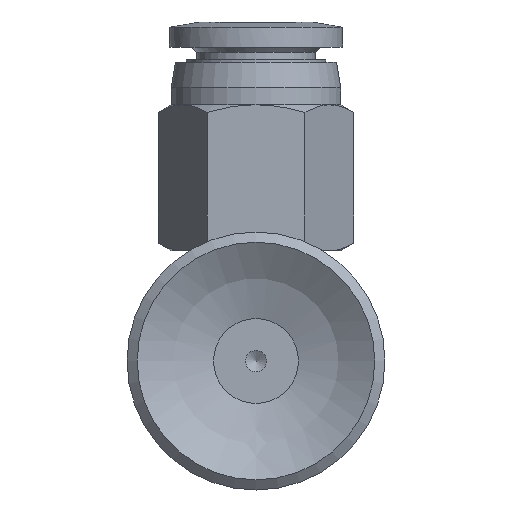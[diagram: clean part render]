
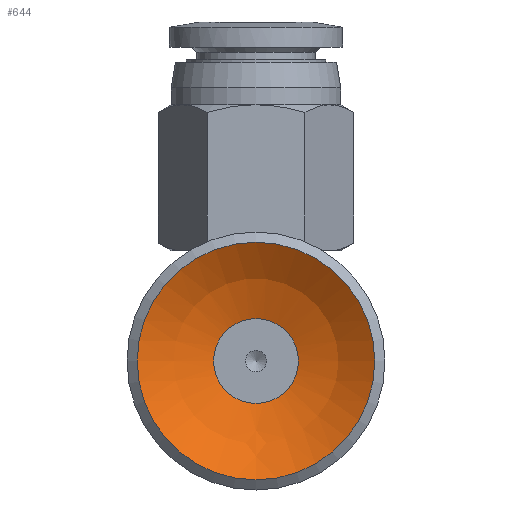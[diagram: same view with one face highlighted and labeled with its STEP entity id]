
A CAD part, front view. The second image highlights one B-rep face of the part: STEP entity #644.
In plain terms, the highlighted spherical face has radius 11.5 mm.
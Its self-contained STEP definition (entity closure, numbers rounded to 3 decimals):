
#644=ADVANCED_FACE('',(#1101,#1102),#1103,.F.);
#1101=FACE_OUTER_BOUND('',#1743,.T.);
#1102=FACE_OUTER_BOUND('',#1744,.T.);
#1103=SPHERICAL_SURFACE('',#1745,11.5);
#1743=EDGE_LOOP('',(#3204));
#1744=EDGE_LOOP('',(#3205));
#1745=AXIS2_PLACEMENT_3D('',#3206,#3207,#3208);
#3204=ORIENTED_EDGE('',*,*,#4367,.T.);
#3205=ORIENTED_EDGE('',*,*,#4368,.F.);
#3206=CARTESIAN_POINT('',(0.001,9.494,-22.735));
#3207=DIRECTION('',(0.0,0.,-1.0));
#3208=DIRECTION('',(1.0,0.0,0.0));
#4367=EDGE_CURVE('',#5096,#5096,#5097,.T.);
#4368=EDGE_CURVE('',#5098,#5098,#5099,.T.);
#5096=VERTEX_POINT('',#6995);
#5097=CIRCLE('',#6996,7.0);
#5098=VERTEX_POINT('',#6997);
#5099=CIRCLE('',#6998,2.5);
#6995=CARTESIAN_POINT('',(0.001,16.494,-13.611));
#6996=AXIS2_PLACEMENT_3D('',#8087,#8088,#8089);
#6997=CARTESIAN_POINT('',(0.001,11.994,-11.51));
#6998=AXIS2_PLACEMENT_3D('',#8090,#8091,#8092);
#8087=CARTESIAN_POINT('',(0.001,9.494,-13.611));
#8088=DIRECTION('',(0.0,0.,-1.0));
#8089=DIRECTION('',(0.0,1.0,0.));
#8090=CARTESIAN_POINT('',(0.001,9.494,-11.51));
#8091=DIRECTION('',(0.0,0.,-1.0));
#8092=DIRECTION('',(0.0,1.0,0.));
